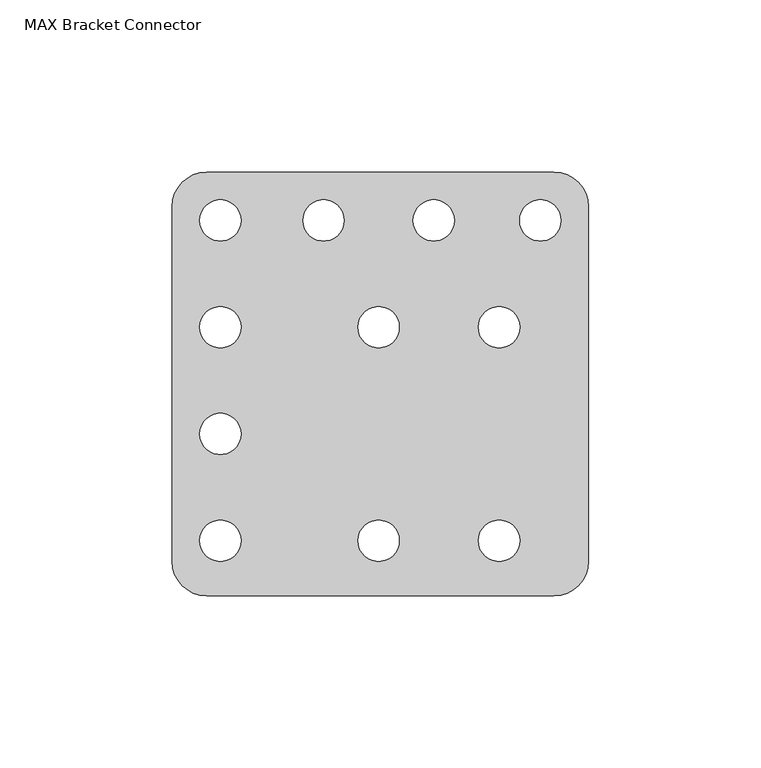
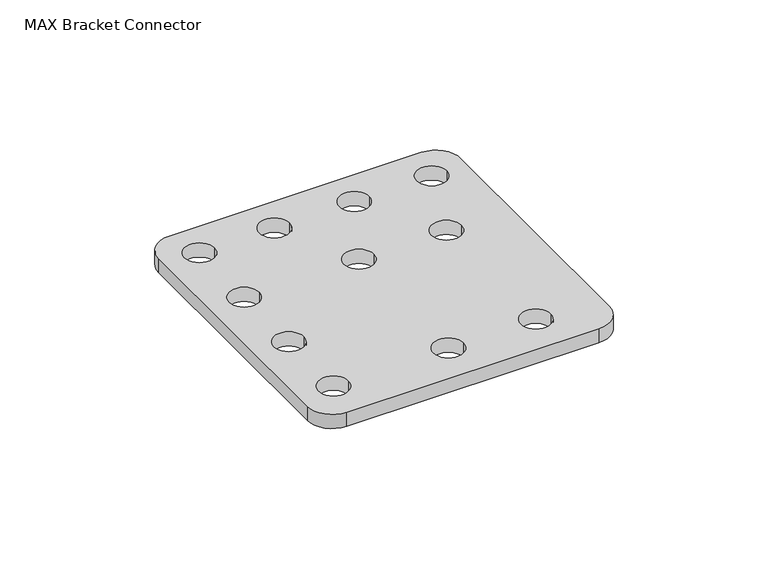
"""IFC4 building model written with IfcOpenShell, lengths in millimetres: proxy geometry, d&b M-Series MAX Bracket Connector : MAX Bracket Connector."""

from ifc_helpers import new_model, si_unit, point, frame, frame_2d, origin, place, context, project, spatial, polyline, circle_curve, trimmed, segment, composite_curve, outline, extrude, source, transform, mapped, element, save


def max_bracket_connector_1a2b8a25(model_context):
    return source(origin(), model_context, "Body", "SweptSolid", [
        extrude(outline(composite_curve([segment(polyline([(-23.6633527, -61.5), (-124.6633527, -61.5)]), True, "CONTINUOUS"), segment(trimmed(circle_curve(frame_2d((-124.6633527, -51.5)), 10.0), [point((-124.6633527, -61.5))], [point((-134.6633527, -51.5))], False, "CARTESIAN"), True, "CONTINUOUS"), segment(polyline([(-134.6633527, -51.5), (-134.6633527, 51.5)]), True, "CONTINUOUS"), segment(trimmed(circle_curve(frame_2d((-124.6633527, 51.5)), 10.0), [point((-134.6633527, 51.5))], [point((-124.6633527, 61.5))], False, "CARTESIAN"), True, "CONTINUOUS"), segment(polyline([(-124.6633527, 61.5), (-23.6633527, 61.5)]), True, "CONTINUOUS"), segment(trimmed(circle_curve(frame_2d((-23.6633527, 51.5)), 10.0), [point((-23.6633527, 61.5))], [point((-13.6633527, 51.5))], False, "CARTESIAN"), True, "CONTINUOUS"), segment(polyline([(-13.6633527, 51.5), (-13.6633527, -51.5)]), True, "CONTINUOUS"), segment(trimmed(circle_curve(frame_2d((-23.6633527, -51.5)), 10.0), [point((-13.6633527, -51.5))], [point((-23.6633527, -61.5))], False, "CARTESIAN"), True, "CONTINUOUS")], self_intersect=False), holes=[composite_curve([segment(trimmed(circle_curve(frame_2d((-120.6633527, -45.5)), 6.0), [point((-126.6633527, -45.5))], [point((-114.6633527, -45.5))], True, "CARTESIAN"), True, "CONTINUOUS"), segment(trimmed(circle_curve(frame_2d((-120.6633527, -45.5)), 6.0), [point((-114.6633527, -45.5))], [point((-126.6633527, -45.5))], True, "CARTESIAN"), True, "CONTINUOUS")], self_intersect=False), composite_curve([segment(trimmed(circle_curve(frame_2d((-74.6633527, -45.5)), 6.0), [point((-80.6633527, -45.5))], [point((-68.6633527, -45.5))], True, "CARTESIAN"), True, "CONTINUOUS"), segment(trimmed(circle_curve(frame_2d((-74.6633527, -45.5)), 6.0), [point((-68.6633527, -45.5))], [point((-80.6633527, -45.5))], True, "CARTESIAN"), True, "CONTINUOUS")], self_intersect=False), composite_curve([segment(trimmed(circle_curve(frame_2d((-39.6633527, -45.5)), 6.0), [point((-45.6633527, -45.5))], [point((-33.6633527, -45.5))], True, "CARTESIAN"), True, "CONTINUOUS"), segment(trimmed(circle_curve(frame_2d((-39.6633527, -45.5)), 6.0), [point((-33.6633527, -45.5))], [point((-45.6633527, -45.5))], True, "CARTESIAN"), True, "CONTINUOUS")], self_intersect=False), composite_curve([segment(trimmed(circle_curve(frame_2d((-120.6633527, 16.5)), 6.0), [point((-126.6633527, 16.5))], [point((-114.6633527, 16.5))], True, "CARTESIAN"), True, "CONTINUOUS"), segment(trimmed(circle_curve(frame_2d((-120.6633527, 16.5)), 6.0), [point((-114.6633527, 16.5))], [point((-126.6633527, 16.5))], True, "CARTESIAN"), True, "CONTINUOUS")], self_intersect=False), composite_curve([segment(trimmed(circle_curve(frame_2d((-120.6633527, -14.5)), 6.0), [point((-126.6633527, -14.5))], [point((-114.6633527, -14.5))], True, "CARTESIAN"), True, "CONTINUOUS"), segment(trimmed(circle_curve(frame_2d((-120.6633527, -14.5)), 6.0), [point((-114.6633527, -14.5))], [point((-126.6633527, -14.5))], True, "CARTESIAN"), True, "CONTINUOUS")], self_intersect=False), composite_curve([segment(trimmed(circle_curve(frame_2d((-120.6633527, 47.5)), 6.0), [point((-126.6633527, 47.5))], [point((-114.6633527, 47.5))], True, "CARTESIAN"), True, "CONTINUOUS"), segment(trimmed(circle_curve(frame_2d((-120.6633527, 47.5)), 6.0), [point((-114.6633527, 47.5))], [point((-126.6633527, 47.5))], True, "CARTESIAN"), True, "CONTINUOUS")], self_intersect=False), composite_curve([segment(trimmed(circle_curve(frame_2d((-74.6633527, 16.5)), 6.0), [point((-80.6633527, 16.5))], [point((-68.6633527, 16.5))], True, "CARTESIAN"), True, "CONTINUOUS"), segment(trimmed(circle_curve(frame_2d((-74.6633527, 16.5)), 6.0), [point((-68.6633527, 16.5))], [point((-80.6633527, 16.5))], True, "CARTESIAN"), True, "CONTINUOUS")], self_intersect=False), composite_curve([segment(trimmed(circle_curve(frame_2d((-39.6633527, 16.5)), 6.0), [point((-45.6633527, 16.5))], [point((-33.6633527, 16.5))], True, "CARTESIAN"), True, "CONTINUOUS"), segment(trimmed(circle_curve(frame_2d((-39.6633527, 16.5)), 6.0), [point((-33.6633527, 16.5))], [point((-45.6633527, 16.5))], True, "CARTESIAN"), True, "CONTINUOUS")], self_intersect=False), composite_curve([segment(trimmed(circle_curve(frame_2d((-90.6633527, 47.5)), 6.0), [point((-96.6633527, 47.5))], [point((-84.6633527, 47.5))], True, "CARTESIAN"), True, "CONTINUOUS"), segment(trimmed(circle_curve(frame_2d((-90.6633527, 47.5)), 6.0), [point((-84.6633527, 47.5))], [point((-96.6633527, 47.5))], True, "CARTESIAN"), True, "CONTINUOUS")], self_intersect=False), composite_curve([segment(trimmed(circle_curve(frame_2d((-58.6633527, 47.5)), 6.0), [point((-64.6633527, 47.5))], [point((-52.6633527, 47.5))], True, "CARTESIAN"), True, "CONTINUOUS"), segment(trimmed(circle_curve(frame_2d((-58.6633527, 47.5)), 6.0), [point((-52.6633527, 47.5))], [point((-64.6633527, 47.5))], True, "CARTESIAN"), True, "CONTINUOUS")], self_intersect=False), composite_curve([segment(trimmed(circle_curve(frame_2d((-27.6633527, 47.5)), 6.0), [point((-33.6633527, 47.5))], [point((-21.6633527, 47.5))], True, "CARTESIAN"), True, "CONTINUOUS"), segment(trimmed(circle_curve(frame_2d((-27.6633527, 47.5)), 6.0), [point((-21.6633527, 47.5))], [point((-33.6633527, 47.5))], True, "CARTESIAN"), True, "CONTINUOUS")], self_intersect=False)]), frame((0.0, 0.0, -3.0), z_axis=(0.0, 0.0, 1.0), x_axis=(1.0, 0.0, 0.0)), (0.0, 0.0, 1.0), 6.0),
    ])


if __name__ == "__main__":
    model = new_model("IFC4")
    model_context = context("Model", 3, world=origin())
    ifc_project = project(units=[si_unit("LENGTHUNIT", "METRE", prefix="MILLI")], contexts=[model_context])
    site = spatial("IfcSite", under=ifc_project)
    building = spatial("IfcBuilding", under=site)
    placement = place(None, origin())
    max_bracket_connector_shape = max_bracket_connector_1a2b8a25(model_context)
    element("IfcBuildingElementProxy", 1, Name="d&b M-Series MAX Bracket Connector : MAX Bracket Connector", ObjectType="d&b M-Series MAX Bracket Connector : MAX Bracket Connector", at=placement, inside=building, context=model_context, shape_type="MappedRepresentation", body=[
        mapped(max_bracket_connector_shape, transform((0.0, 0.0, 0.0), x_axis=(1.0, 0.0, 0.0), y_axis=(0.0, 1.0, 0.0), z_axis=(0.0, 0.0, 1.0))),
    ])
    save(model, "model.ifc")
